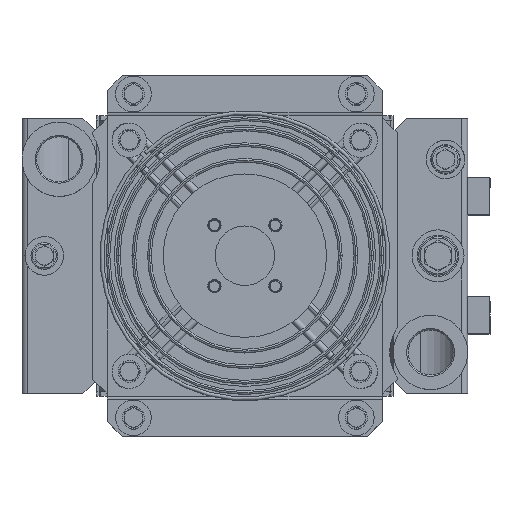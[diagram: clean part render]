
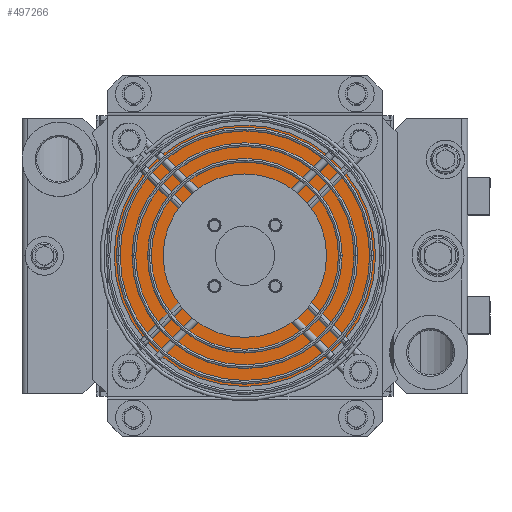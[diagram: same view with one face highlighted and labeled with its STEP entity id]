
A CAD part, top view. The second image highlights one B-rep face of the part: STEP entity #497266.
In plain terms, the highlighted planar face has unit normal (0, 0, 1).
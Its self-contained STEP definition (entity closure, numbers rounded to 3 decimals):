
#494936=CARTESIAN_POINT(' ',(94.247,182.96,31.5));
#494937=VERTEX_POINT(' ',#494936);
#495291=CARTESIAN_POINT(' ',(-94.247,182.96,31.5));
#495292=VERTEX_POINT(' ',#495291);
#495306=CARTESIAN_POINT(' ',(94.247,182.96,31.5));
#495311=DIRECTION(' ',(-1.,0.,0.));
#495316=VECTOR(' ',#495311,1.);
#495321=LINE(' ',#495306,#495316);
#495326=EDGE_CURVE(' ',#494937,#495292,#495321,.T.);
#495461=CARTESIAN_POINT(' ',(94.247,182.96,31.5));
#495466=DIRECTION(' ',(0.,-1.,0.));
#495471=VECTOR(' ',#495466,1.);
#495476=LINE(' ',#495461,#495471);
#495481=CARTESIAN_POINT(' ',(94.247,0.,31.5));
#495482=VERTEX_POINT(' ',#495481);
#495486=EDGE_CURVE(' ',#494937,#495482,#495476,.T.);
#497051=CARTESIAN_POINT(' ',(-94.247,182.96,31.5));
#497056=DIRECTION(' ',(0.,-1.,0.));
#497061=VECTOR(' ',#497056,1.);
#497066=LINE(' ',#497051,#497061);
#497071=CARTESIAN_POINT(' ',(-94.247,0.,31.5));
#497072=VERTEX_POINT(' ',#497071);
#497076=EDGE_CURVE(' ',#495292,#497072,#497066,.T.);
#497186=CARTESIAN_POINT(' ',(-94.247,0.,31.5));
#497191=DIRECTION(' ',(0.,0.,1.));
#497196=DIRECTION(' ',(1.,0.,0.));
#497201=AXIS2_PLACEMENT_3D(' ',#497186,#497191,#497196);
#497206=PLANE(' ',#497201);
#497211=ORIENTED_EDGE(' ',*,*,#495486,.F.);
#497216=ORIENTED_EDGE(' ',*,*,#495326,.T.);
#497221=ORIENTED_EDGE(' ',*,*,#497076,.T.);
#497226=CARTESIAN_POINT(' ',(94.247,0.,31.5));
#497231=DIRECTION(' ',(-1.,0.,0.));
#497236=VECTOR(' ',#497231,1.);
#497241=LINE(' ',#497226,#497236);
#497246=EDGE_CURVE(' ',#495482,#497072,#497241,.T.);
#497251=ORIENTED_EDGE(' ',*,*,#497246,.F.);
#497256=EDGE_LOOP(' ',(#497211,#497216,#497221,#497251));
#497261=FACE_OUTER_BOUND(' ',#497256,.T.);
#497266=ADVANCED_FACE(' ',(#497261),#497206,.T.);
